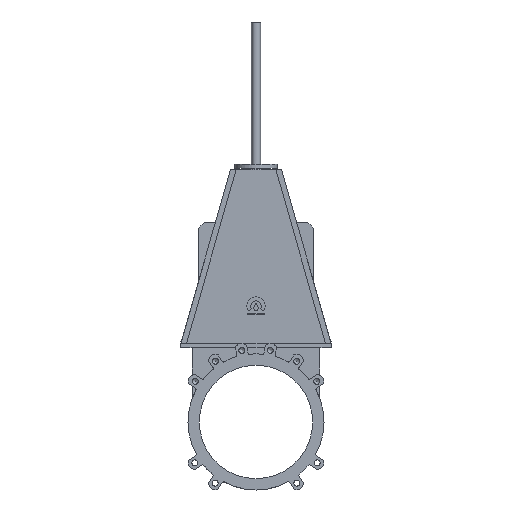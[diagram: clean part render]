
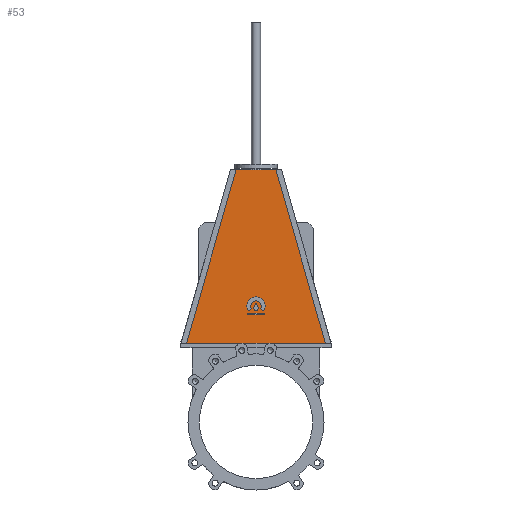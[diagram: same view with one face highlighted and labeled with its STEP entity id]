
A CAD part, front view. The second image highlights one B-rep face of the part: STEP entity #53.
In plain terms, the highlighted planar face has unit normal (0, -1, 0).
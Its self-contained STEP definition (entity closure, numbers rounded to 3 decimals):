
#53=ADVANCED_FACE('',(#2420,#2422,#2424,#2426),#2428,.F.);
#2420=FACE_BOUND('',#2421,.T.);
#2421=EDGE_LOOP('',(#4423,#4424,#4425,#4426,#4427,#4428,#4429,#4430,#4431,#4432));
#2422=FACE_BOUND('',#2423,.T.);
#2423=EDGE_LOOP('',(#4433,#4434,#4435,#4436));
#2424=FACE_BOUND('',#2425,.T.);
#2425=EDGE_LOOP('',(#4437,#4438,#4439,#4440));
#2426=FACE_BOUND('',#2427,.T.);
#2427=EDGE_LOOP('',(#4441,#4442,#4443,#4444,#4445,#4446));
#2428=PLANE('',#2429);
#2429=AXIS2_PLACEMENT_3D('',#2430,#2431,#2432);
#2430=CARTESIAN_POINT('',(245.,-36.,277.5));
#2431=DIRECTION('',(0.,1.,0.));
#2432=DIRECTION('',(-1.,0.,0.));
#4423=ORIENTED_EDGE('',*,*,#5837,.F.);
#4424=ORIENTED_EDGE('',*,*,#5838,.T.);
#4425=ORIENTED_EDGE('',*,*,#5839,.F.);
#4426=ORIENTED_EDGE('',*,*,#5840,.F.);
#4427=ORIENTED_EDGE('',*,*,#5841,.T.);
#4428=ORIENTED_EDGE('',*,*,#5842,.F.);
#4429=ORIENTED_EDGE('',*,*,#5843,.T.);
#4430=ORIENTED_EDGE('',*,*,#5844,.F.);
#4431=ORIENTED_EDGE('',*,*,#5845,.T.);
#4432=ORIENTED_EDGE('',*,*,#5846,.T.);
#4433=ORIENTED_EDGE('',*,*,#5847,.F.);
#4434=ORIENTED_EDGE('',*,*,#5848,.F.);
#4435=ORIENTED_EDGE('',*,*,#5849,.F.);
#4436=ORIENTED_EDGE('',*,*,#5850,.F.);
#4437=ORIENTED_EDGE('',*,*,#5851,.F.);
#4438=ORIENTED_EDGE('',*,*,#5852,.F.);
#4439=ORIENTED_EDGE('',*,*,#5853,.F.);
#4440=ORIENTED_EDGE('',*,*,#5854,.F.);
#4441=ORIENTED_EDGE('',*,*,#5855,.F.);
#4442=ORIENTED_EDGE('',*,*,#5856,.F.);
#4443=ORIENTED_EDGE('',*,*,#5857,.F.);
#4444=ORIENTED_EDGE('',*,*,#5858,.F.);
#4445=ORIENTED_EDGE('',*,*,#5859,.F.);
#4446=ORIENTED_EDGE('',*,*,#5860,.F.);
#5837=EDGE_CURVE('',#6544,#6545,#6546,.F.);
#5838=EDGE_CURVE('',#6544,#6547,#6548,.T.);
#5839=EDGE_CURVE('',#6549,#6547,#6550,.T.);
#5840=EDGE_CURVE('',#6551,#6549,#6552,.T.);
#5841=EDGE_CURVE('',#6551,#6553,#6554,.T.);
#5842=EDGE_CURVE('',#6555,#6553,#6556,.T.);
#5843=EDGE_CURVE('',#6555,#6557,#6558,.T.);
#5844=EDGE_CURVE('',#6559,#6557,#6560,.T.);
#5845=EDGE_CURVE('',#6559,#6561,#6562,.T.);
#5846=EDGE_CURVE('',#6561,#6545,#6563,.T.);
#5847=EDGE_CURVE('',#6564,#6565,#6566,.F.);
#5848=EDGE_CURVE('',#6567,#6564,#6568,.T.);
#5849=EDGE_CURVE('',#6569,#6567,#6570,.F.);
#5850=EDGE_CURVE('',#6565,#6569,#6571,.T.);
#5851=EDGE_CURVE('',#6572,#6573,#6574,.F.);
#5852=EDGE_CURVE('',#6575,#6572,#6576,.F.);
#5853=EDGE_CURVE('',#6577,#6575,#6578,.F.);
#5854=EDGE_CURVE('',#6573,#6577,#6579,.F.);
#5855=EDGE_CURVE('',#6580,#6581,#6582,.F.);
#5856=EDGE_CURVE('',#6583,#6580,#6584,.T.);
#5857=EDGE_CURVE('',#6585,#6583,#6586,.T.);
#5858=EDGE_CURVE('',#6587,#6585,#6588,.T.);
#5859=EDGE_CURVE('',#6589,#6587,#6590,.T.);
#5860=EDGE_CURVE('',#6581,#6589,#6591,.T.);
#6544=VERTEX_POINT('',#7736);
#6545=VERTEX_POINT('',#7737);
#6546=LINE('',#7738,#7739);
#6547=VERTEX_POINT('',#7741);
#6548=LINE('',#7742,#7743);
#6549=VERTEX_POINT('',#7745);
#6550=LINE('',#7746,#7747);
#6551=VERTEX_POINT('',#7749);
#6552=LINE('',#7750,#7751);
#6553=VERTEX_POINT('',#7753);
#6554=CIRCLE('',#7754,23.);
#6555=VERTEX_POINT('',#7758);
#6556=LINE('',#7759,#7760);
#6557=VERTEX_POINT('',#7762);
#6558=CIRCLE('',#7763,23.);
#6559=VERTEX_POINT('',#7767);
#6560=LINE('',#7768,#7769);
#6561=VERTEX_POINT('',#7771);
#6562=LINE('',#7772,#7773);
#6563=LINE('',#7775,#7776);
#6564=VERTEX_POINT('',#7778);
#6565=VERTEX_POINT('',#7779);
#6566=LINE('',#7780,#7781);
#6567=VERTEX_POINT('',#7783);
#6568=CIRCLE('',#7784,32.087);
#6569=VERTEX_POINT('',#7788);
#6570=LINE('',#7789,#7790);
#6571=CIRCLE('',#7792,18.203);
#6572=VERTEX_POINT('',#7796);
#6573=VERTEX_POINT('',#7797);
#6574=LINE('',#7798,#7799);
#6575=VERTEX_POINT('',#7801);
#6576=LINE('',#7802,#7803);
#6577=VERTEX_POINT('',#7805);
#6578=LINE('',#7806,#7807);
#6579=LINE('',#7809,#7810);
#6580=VERTEX_POINT('',#7812);
#6581=VERTEX_POINT('',#7813);
#6582=LINE('',#7814,#7815);
#6583=VERTEX_POINT('',#7817);
#6584=CIRCLE('',#7818,1.002);
#6585=VERTEX_POINT('',#7822);
#6586=CIRCLE('',#7823,33.771);
#6587=VERTEX_POINT('',#7827);
#6588=CIRCLE('',#7828,8.019);
#6589=VERTEX_POINT('',#7832);
#6590=CIRCLE('',#7833,33.771);
#6591=CIRCLE('',#7837,1.002);
#7736=CARTESIAN_POINT('',(-17.436,-36.,890.));
#7737=CARTESIAN_POINT('',(17.436,-36.,890.));
#7738=CARTESIAN_POINT('',(17.436,-36.,890.));
#7739=VECTOR('',#7740,1.);
#7740=DIRECTION('',(-1.,0.,0.));
#7741=CARTESIAN_POINT('',(-70.,-36.,890.));
#7742=CARTESIAN_POINT('',(-17.436,-36.,890.));
#7743=VECTOR('',#7744,1.);
#7744=DIRECTION('',(-1.,0.,0.));
#7745=CARTESIAN_POINT('',(-245.,-36.,277.5));
#7746=CARTESIAN_POINT('',(-245.,-36.,277.5));
#7747=VECTOR('',#7748,1.);
#7748=DIRECTION('',(0.275,0.,0.962));
#7749=CARTESIAN_POINT('',(-51.422,-36.,277.5));
#7750=CARTESIAN_POINT('',(-51.422,-36.,277.5));
#7751=VECTOR('',#7752,1.);
#7752=DIRECTION('',(-1.,0.,0.));
#7753=CARTESIAN_POINT('',(-49.83,-36.,277.5));
#7754=AXIS2_PLACEMENT_3D('',#7755,#7756,#7757);
#7755=CARTESIAN_POINT('',(-50.626,-36.,254.514));
#7756=DIRECTION('',(0.,1.,0.));
#7757=DIRECTION('',(-0.035,0.,0.999));
#7758=CARTESIAN_POINT('',(49.83,-36.,277.5));
#7759=CARTESIAN_POINT('',(49.83,-36.,277.5));
#7760=VECTOR('',#7761,1.);
#7761=DIRECTION('',(-1.,0.,0.));
#7762=CARTESIAN_POINT('',(51.422,-36.,277.5));
#7763=AXIS2_PLACEMENT_3D('',#7764,#7765,#7766);
#7764=CARTESIAN_POINT('',(50.626,-36.,254.514));
#7765=DIRECTION('',(0.,1.,0.));
#7766=DIRECTION('',(-0.035,0.,0.999));
#7767=CARTESIAN_POINT('',(245.,-36.,277.5));
#7768=CARTESIAN_POINT('',(245.,-36.,277.5));
#7769=VECTOR('',#7770,1.);
#7770=DIRECTION('',(-1.,0.,0.));
#7771=CARTESIAN_POINT('',(70.,-36.,890.));
#7772=CARTESIAN_POINT('',(245.,-36.,277.5));
#7773=VECTOR('',#7774,1.);
#7774=DIRECTION('',(-0.275,0.,0.962));
#7775=CARTESIAN_POINT('',(70.,-36.,890.));
#7776=VECTOR('',#7777,1.);
#7777=DIRECTION('',(-1.,0.,0.));
#7778=CARTESIAN_POINT('',(-26.976,-36.,391.541));
#7779=CARTESIAN_POINT('',(-15.304,-36.,399.059));
#7780=CARTESIAN_POINT('',(-15.304,-36.,399.059));
#7781=VECTOR('',#7782,1.);
#7782=DIRECTION('',(-0.841,0.,-0.541));
#7783=CARTESIAN_POINT('',(26.976,-36.,391.541));
#7784=AXIS2_PLACEMENT_3D('',#7785,#7786,#7787);
#7785=CARTESIAN_POINT('',(0.,-36.,408.915));
#7786=DIRECTION('',(0.,-1.,0.));
#7787=DIRECTION('',(0.841,0.,-0.541));
#7788=CARTESIAN_POINT('',(15.304,-36.,399.059));
#7789=CARTESIAN_POINT('',(26.976,-36.,391.541));
#7790=VECTOR('',#7791,1.);
#7791=DIRECTION('',(-0.841,0.,0.541));
#7792=AXIS2_PLACEMENT_3D('',#7793,#7794,#7795);
#7793=CARTESIAN_POINT('',(0.,-36.,408.915));
#7794=DIRECTION('',(0.,1.,0.));
#7795=DIRECTION('',(-0.841,0.,-0.541));
#7796=CARTESIAN_POINT('',(-28.601,-36.,377.5));
#7797=CARTESIAN_POINT('',(28.601,-36.,377.5));
#7798=CARTESIAN_POINT('',(28.601,-36.,377.5));
#7799=VECTOR('',#7800,1.);
#7800=DIRECTION('',(-1.,0.,0.));
#7801=CARTESIAN_POINT('',(-28.601,-36.,384.185));
#7802=CARTESIAN_POINT('',(-28.601,-36.,377.5));
#7803=VECTOR('',#7804,1.);
#7804=DIRECTION('',(0.,0.,1.));
#7805=CARTESIAN_POINT('',(28.601,-36.,384.185));
#7806=CARTESIAN_POINT('',(-28.601,-36.,384.185));
#7807=VECTOR('',#7808,1.);
#7808=DIRECTION('',(1.,0.,0.));
#7809=CARTESIAN_POINT('',(28.601,-36.,384.185));
#7810=VECTOR('',#7811,1.);
#7811=DIRECTION('',(0.,0.,-1.));
#7812=CARTESIAN_POINT('',(0.072,-36.,418.785));
#7813=CARTESIAN_POINT('',(-0.072,-36.,418.785));
#7814=CARTESIAN_POINT('',(-0.072,-36.,418.785));
#7815=VECTOR('',#7816,1.);
#7816=DIRECTION('',(1.,0.,0.));
#7817=CARTESIAN_POINT('',(1.044,-36.,418.03));
#7818=AXIS2_PLACEMENT_3D('',#7819,#7820,#7821);
#7819=CARTESIAN_POINT('',(0.072,-36.,417.783));
#7820=DIRECTION('',(0.,-1.,0.));
#7821=DIRECTION('',(0.969,0.,0.247));
#7822=CARTESIAN_POINT('',(6.48,-36.,406.468));
#7823=AXIS2_PLACEMENT_3D('',#7824,#7825,#7826);
#7824=CARTESIAN_POINT('',(33.771,-36.,426.36));
#7825=DIRECTION('',(0.,1.,0.));
#7826=DIRECTION('',(-0.808,0.,-0.589));
#7827=CARTESIAN_POINT('',(-6.48,-36.,406.468));
#7828=AXIS2_PLACEMENT_3D('',#7829,#7830,#7831);
#7829=CARTESIAN_POINT('',(0.,-36.,401.745));
#7830=DIRECTION('',(0.,-1.,0.));
#7831=DIRECTION('',(-0.808,0.,0.589));
#7832=CARTESIAN_POINT('',(-1.044,-36.,418.03));
#7833=AXIS2_PLACEMENT_3D('',#7834,#7835,#7836);
#7834=CARTESIAN_POINT('',(-33.771,-36.,426.36));
#7835=DIRECTION('',(0.,1.,0.));
#7836=DIRECTION('',(0.969,0.,-0.247));
#7837=AXIS2_PLACEMENT_3D('',#7838,#7839,#7840);
#7838=CARTESIAN_POINT('',(-0.072,-36.,417.783));
#7839=DIRECTION('',(0.,-1.,0.));
#7840=DIRECTION('',(0.,0.,1.));
